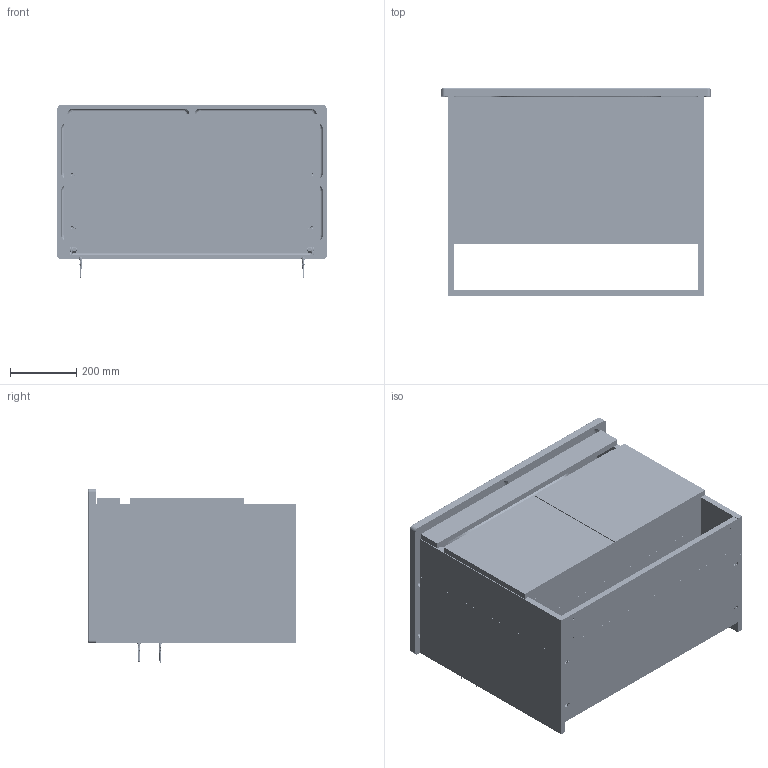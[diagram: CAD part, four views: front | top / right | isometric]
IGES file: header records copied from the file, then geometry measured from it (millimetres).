
Global section: file name: Fold Lavabo Dolabı 80cm,; native system: Autodesk Inventor 2024; preprocessor: unknown; author: pc11; date: 20260624.134832; units: millimetre
Bounding box: 810 x 625 x 524.85 mm (x, y, z)
Volume: 30471976.9 mm3; surface area: 4464858.2 mm2
Topology: 113 solids, 117 shells, 10051 faces, 27846 edges, 18042 vertices
Faces by surface type: bspline 10051
